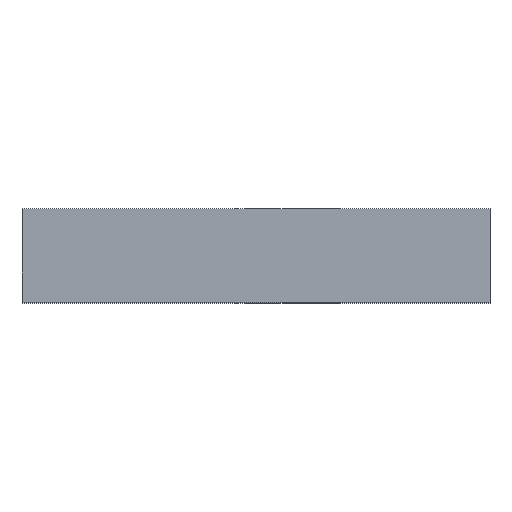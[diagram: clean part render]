
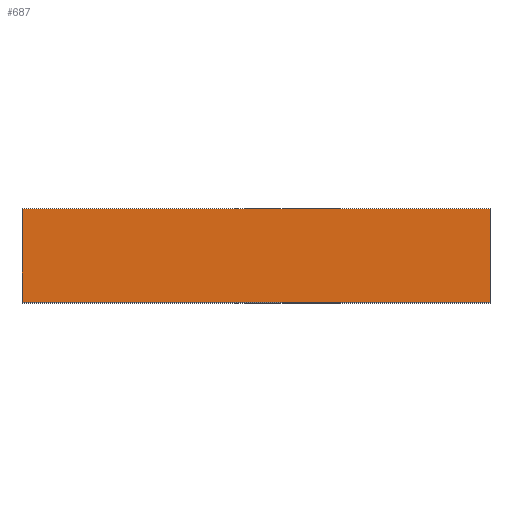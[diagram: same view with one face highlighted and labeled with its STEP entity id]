
A CAD part, top view. The second image highlights one B-rep face of the part: STEP entity #687.
In plain terms, the highlighted planar face has unit normal (0, 0, 1).
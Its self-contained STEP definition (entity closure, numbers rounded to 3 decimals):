
#42 = VERTEX_POINT('',#43);
#43 = CARTESIAN_POINT('',(-46.,-6.,6.));
#50 = PLANE('',#51);
#51 = AXIS2_PLACEMENT_3D('',#52,#53,#54);
#52 = CARTESIAN_POINT('',(-46.,-6.,-6.));
#53 = DIRECTION('',(1.,0.,0.));
#54 = DIRECTION('',(0.,0.,1.));
#62 = PLANE('',#63);
#63 = AXIS2_PLACEMENT_3D('',#64,#65,#66);
#64 = CARTESIAN_POINT('',(-46.,-6.,-6.));
#65 = DIRECTION('',(0.,1.,0.));
#66 = DIRECTION('',(0.,0.,1.));
#103 = VERTEX_POINT('',#104);
#104 = CARTESIAN_POINT('',(-46.,-4.4,6.));
#118 = PLANE('',#119);
#119 = AXIS2_PLACEMENT_3D('',#120,#121,#122);
#120 = CARTESIAN_POINT('',(-46.,-4.4,-6.));
#121 = DIRECTION('',(0.,1.,0.));
#122 = DIRECTION('',(0.,0.,1.));
#130 = EDGE_CURVE('',#42,#103,#131,.T.);
#131 = SURFACE_CURVE('',#132,(#136,#143),.PCURVE_S1.);
#132 = LINE('',#133,#134);
#133 = CARTESIAN_POINT('',(-46.,-6.,6.));
#134 = VECTOR('',#135,1.);
#135 = DIRECTION('',(0.,1.,0.));
#136 = PCURVE('',#50,#137);
#137 = DEFINITIONAL_REPRESENTATION('',(#138),#142);
#138 = LINE('',#139,#140);
#139 = CARTESIAN_POINT('',(12.,0.));
#140 = VECTOR('',#141,1.);
#141 = DIRECTION('',(0.,-1.));
#142 = ( GEOMETRIC_REPRESENTATION_CONTEXT(2) 
PARAMETRIC_REPRESENTATION_CONTEXT() REPRESENTATION_CONTEXT('2D SPACE',''
  ) );
#143 = PCURVE('',#144,#149);
#144 = PLANE('',#145);
#145 = AXIS2_PLACEMENT_3D('',#146,#147,#148);
#146 = CARTESIAN_POINT('',(-46.,-6.,6.));
#147 = DIRECTION('',(0.,0.,1.));
#148 = DIRECTION('',(1.,0.,0.));
#149 = DEFINITIONAL_REPRESENTATION('',(#150),#154);
#150 = LINE('',#151,#152);
#151 = CARTESIAN_POINT('',(0.,0.));
#152 = VECTOR('',#153,1.);
#153 = DIRECTION('',(0.,1.));
#154 = ( GEOMETRIC_REPRESENTATION_CONTEXT(2) 
PARAMETRIC_REPRESENTATION_CONTEXT() REPRESENTATION_CONTEXT('2D SPACE',''
  ) );
#183 = EDGE_CURVE('',#42,#184,#186,.T.);
#184 = VERTEX_POINT('',#185);
#185 = CARTESIAN_POINT('',(-38.,-6.,6.));
#186 = SURFACE_CURVE('',#187,(#191,#198),.PCURVE_S1.);
#187 = LINE('',#188,#189);
#188 = CARTESIAN_POINT('',(-46.,-6.,6.));
#189 = VECTOR('',#190,1.);
#190 = DIRECTION('',(1.,0.,0.));
#191 = PCURVE('',#62,#192);
#192 = DEFINITIONAL_REPRESENTATION('',(#193),#197);
#193 = LINE('',#194,#195);
#194 = CARTESIAN_POINT('',(12.,0.));
#195 = VECTOR('',#196,1.);
#196 = DIRECTION('',(0.,1.));
#197 = ( GEOMETRIC_REPRESENTATION_CONTEXT(2) 
PARAMETRIC_REPRESENTATION_CONTEXT() REPRESENTATION_CONTEXT('2D SPACE',''
  ) );
#198 = PCURVE('',#144,#199);
#199 = DEFINITIONAL_REPRESENTATION('',(#200),#204);
#200 = LINE('',#201,#202);
#201 = CARTESIAN_POINT('',(0.,0.));
#202 = VECTOR('',#203,1.);
#203 = DIRECTION('',(1.,0.));
#204 = ( GEOMETRIC_REPRESENTATION_CONTEXT(2) 
PARAMETRIC_REPRESENTATION_CONTEXT() REPRESENTATION_CONTEXT('2D SPACE',''
  ) );
#220 = PLANE('',#221);
#221 = AXIS2_PLACEMENT_3D('',#222,#223,#224);
#222 = CARTESIAN_POINT('',(-38.,-6.,-6.));
#223 = DIRECTION('',(1.,0.,0.));
#224 = DIRECTION('',(0.,0.,1.));
#687 = ADVANCED_FACE('',(#688),#144,.T.);
#688 = FACE_BOUND('',#689,.T.);
#689 = EDGE_LOOP('',(#690,#691,#692,#715));
#690 = ORIENTED_EDGE('',*,*,#130,.F.);
#691 = ORIENTED_EDGE('',*,*,#183,.T.);
#692 = ORIENTED_EDGE('',*,*,#693,.T.);
#693 = EDGE_CURVE('',#184,#694,#696,.T.);
#694 = VERTEX_POINT('',#695);
#695 = CARTESIAN_POINT('',(-38.,-4.4,6.));
#696 = SURFACE_CURVE('',#697,(#701,#708),.PCURVE_S1.);
#697 = LINE('',#698,#699);
#698 = CARTESIAN_POINT('',(-38.,-6.,6.));
#699 = VECTOR('',#700,1.);
#700 = DIRECTION('',(0.,1.,0.));
#701 = PCURVE('',#144,#702);
#702 = DEFINITIONAL_REPRESENTATION('',(#703),#707);
#703 = LINE('',#704,#705);
#704 = CARTESIAN_POINT('',(8.,0.));
#705 = VECTOR('',#706,1.);
#706 = DIRECTION('',(0.,1.));
#707 = ( GEOMETRIC_REPRESENTATION_CONTEXT(2) 
PARAMETRIC_REPRESENTATION_CONTEXT() REPRESENTATION_CONTEXT('2D SPACE',''
  ) );
#708 = PCURVE('',#220,#709);
#709 = DEFINITIONAL_REPRESENTATION('',(#710),#714);
#710 = LINE('',#711,#712);
#711 = CARTESIAN_POINT('',(12.,0.));
#712 = VECTOR('',#713,1.);
#713 = DIRECTION('',(0.,-1.));
#714 = ( GEOMETRIC_REPRESENTATION_CONTEXT(2) 
PARAMETRIC_REPRESENTATION_CONTEXT() REPRESENTATION_CONTEXT('2D SPACE',''
  ) );
#715 = ORIENTED_EDGE('',*,*,#716,.F.);
#716 = EDGE_CURVE('',#103,#694,#717,.T.);
#717 = SURFACE_CURVE('',#718,(#722,#729),.PCURVE_S1.);
#718 = LINE('',#719,#720);
#719 = CARTESIAN_POINT('',(-46.,-4.4,6.));
#720 = VECTOR('',#721,1.);
#721 = DIRECTION('',(1.,0.,0.));
#722 = PCURVE('',#144,#723);
#723 = DEFINITIONAL_REPRESENTATION('',(#724),#728);
#724 = LINE('',#725,#726);
#725 = CARTESIAN_POINT('',(0.,1.6));
#726 = VECTOR('',#727,1.);
#727 = DIRECTION('',(1.,0.));
#728 = ( GEOMETRIC_REPRESENTATION_CONTEXT(2) 
PARAMETRIC_REPRESENTATION_CONTEXT() REPRESENTATION_CONTEXT('2D SPACE',''
  ) );
#729 = PCURVE('',#118,#730);
#730 = DEFINITIONAL_REPRESENTATION('',(#731),#735);
#731 = LINE('',#732,#733);
#732 = CARTESIAN_POINT('',(12.,0.));
#733 = VECTOR('',#734,1.);
#734 = DIRECTION('',(0.,1.));
#735 = ( GEOMETRIC_REPRESENTATION_CONTEXT(2) 
PARAMETRIC_REPRESENTATION_CONTEXT() REPRESENTATION_CONTEXT('2D SPACE',''
  ) );
